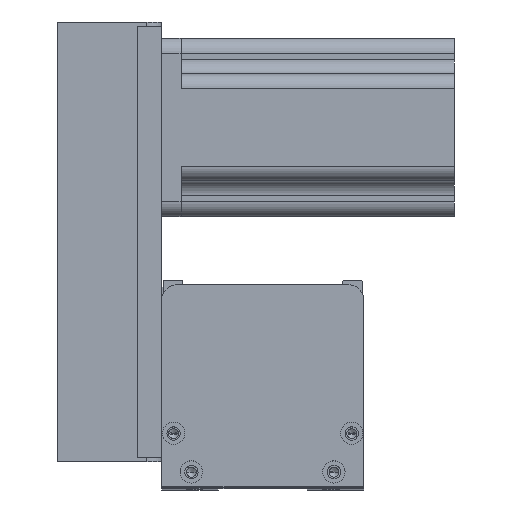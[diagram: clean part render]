
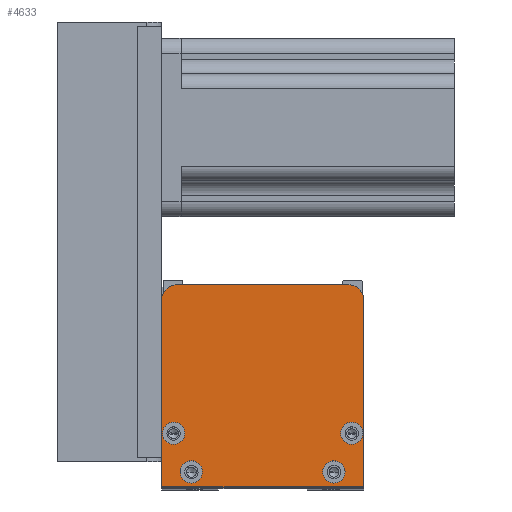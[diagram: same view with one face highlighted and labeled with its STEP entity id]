
A CAD part, top view. The second image highlights one B-rep face of the part: STEP entity #4633.
In plain terms, the highlighted planar face has unit normal (0, 0, 1) as drawn and (0, 0, -1) by its records, which use the part's own axes.
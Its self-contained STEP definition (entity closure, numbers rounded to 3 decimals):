
#109 = EDGE_LOOP ( 'NONE', ( #4531, #4607 ) ) ;
#234 = DIRECTION ( 'NONE',  ( 1., 0., 0. ) ) ;
#284 = DIRECTION ( 'NONE',  ( 0., 0., -1. ) ) ;
#547 = CARTESIAN_POINT ( 'NONE',  ( 7.75, 18., 0. ) ) ;
#691 = AXIS2_PLACEMENT_3D ( 'NONE', #6512, #6688, #18217 ) ;
#1146 = VERTEX_POINT ( 'NONE', #22834 ) ;
#1393 = EDGE_CURVE ( 'NONE', #9323, #11879, #12848, .T. ) ;
#1472 = CARTESIAN_POINT ( 'NONE',  ( 0., 0., 0. ) ) ;
#1484 = DIRECTION ( 'NONE',  ( 0., 0., -1. ) ) ;
#1740 = CARTESIAN_POINT ( 'NONE',  ( 68., 0., 0. ) ) ;
#2481 = AXIS2_PLACEMENT_3D ( 'NONE', #17604, #5911, #19206 ) ;
#2862 = AXIS2_PLACEMENT_3D ( 'NONE', #8205, #17790, #17957 ) ;
#3158 = CARTESIAN_POINT ( 'NONE',  ( 64., 18., 0. ) ) ;
#3197 = CARTESIAN_POINT ( 'NONE',  ( 64., 18., 0. ) ) ;
#3367 = ORIENTED_EDGE ( 'NONE', *, *, #21959, .F. ) ;
#3390 = EDGE_LOOP ( 'NONE', ( #10910, #14379 ) ) ;
#3725 = CARTESIAN_POINT ( 'NONE',  ( 63., 68., 0. ) ) ;
#3748 = EDGE_CURVE ( 'NONE', #8228, #20746, #10017, .T. ) ;
#3756 = FACE_OUTER_BOUND ( 'NONE', #11266, .T. ) ;
#3835 = CIRCLE ( 'NONE', #2862, 5. ) ;
#4088 = DIRECTION ( 'NONE',  ( 0., 0., -1. ) ) ;
#4242 = VECTOR ( 'NONE', #19220, 1000. ) ;
#4271 = CARTESIAN_POINT ( 'NONE',  ( 13.75, 5., 0. ) ) ;
#4362 = FACE_BOUND ( 'NONE', #109, .T. ) ;
#4531 = ORIENTED_EDGE ( 'NONE', *, *, #22191, .F. ) ;
#4607 = ORIENTED_EDGE ( 'NONE', *, *, #1393, .F. ) ;
#4633 = ADVANCED_FACE ( 'NONE', ( #4362, #14039, #8848, #20374, #3756 ), #6222, .F. ) ;
#4650 = CIRCLE ( 'NONE', #691, 3.75 ) ;
#4924 = EDGE_LOOP ( 'NONE', ( #18334, #3367 ) ) ;
#5911 = DIRECTION ( 'NONE',  ( 0., 0., -1. ) ) ;
#6070 = AXIS2_PLACEMENT_3D ( 'NONE', #11777, #13897, #234 ) ;
#6222 = PLANE ( 'NONE',  #10911 ) ;
#6261 = CARTESIAN_POINT ( 'NONE',  ( 68., 68., 0. ) ) ;
#6512 = CARTESIAN_POINT ( 'NONE',  ( 4., 18., 0. ) ) ;
#6594 = ORIENTED_EDGE ( 'NONE', *, *, #19668, .F. ) ;
#6688 = DIRECTION ( 'NONE',  ( 0., 0., -1. ) ) ;
#7095 = CARTESIAN_POINT ( 'NONE',  ( 0., 0., 0. ) ) ;
#7136 = ORIENTED_EDGE ( 'NONE', *, *, #10912, .F. ) ;
#7574 = EDGE_CURVE ( 'NONE', #13852, #20528, #10204, .T. ) ;
#7585 = DIRECTION ( 'NONE',  ( 0., -1., 0. ) ) ;
#8040 = VERTEX_POINT ( 'NONE', #13286 ) ;
#8050 = LINE ( 'NONE', #11026, #22901 ) ;
#8151 = VERTEX_POINT ( 'NONE', #547 ) ;
#8205 = CARTESIAN_POINT ( 'NONE',  ( 63., 63., 0. ) ) ;
#8228 = VERTEX_POINT ( 'NONE', #19874 ) ;
#8848 = FACE_BOUND ( 'NONE', #3390, .T. ) ;
#9013 = AXIS2_PLACEMENT_3D ( 'NONE', #15836, #4088, #13882 ) ;
#9323 = VERTEX_POINT ( 'NONE', #10101 ) ;
#9428 = EDGE_LOOP ( 'NONE', ( #7136, #12215 ) ) ;
#9583 = ORIENTED_EDGE ( 'NONE', *, *, #3748, .F. ) ;
#9778 = DIRECTION ( 'NONE',  ( -1., 0., 0. ) ) ;
#10017 = LINE ( 'NONE', #7095, #23935 ) ;
#10101 = CARTESIAN_POINT ( 'NONE',  ( 67.75, 18., 0. ) ) ;
#10204 = CIRCLE ( 'NONE', #18026, 3.75 ) ;
#10646 = DIRECTION ( 'NONE',  ( 0., 0., -1. ) ) ;
#10752 = VERTEX_POINT ( 'NONE', #4271 ) ;
#10871 = EDGE_CURVE ( 'NONE', #8228, #14805, #17036, .T. ) ;
#10910 = ORIENTED_EDGE ( 'NONE', *, *, #12890, .F. ) ;
#10911 = AXIS2_PLACEMENT_3D ( 'NONE', #13866, #19790, #19863 ) ;
#10912 = EDGE_CURVE ( 'NONE', #8040, #8151, #19774, .T. ) ;
#11026 = CARTESIAN_POINT ( 'NONE',  ( 68., 0., 0. ) ) ;
#11266 = EDGE_LOOP ( 'NONE', ( #9583, #13591, #11672, #16688, #22677, #6594 ) ) ;
#11672 = ORIENTED_EDGE ( 'NONE', *, *, #20481, .F. ) ;
#11777 = CARTESIAN_POINT ( 'NONE',  ( 5., 63., 0. ) ) ;
#11879 = VERTEX_POINT ( 'NONE', #22317 ) ;
#12046 = CARTESIAN_POINT ( 'NONE',  ( 61.75, 5., 0. ) ) ;
#12215 = ORIENTED_EDGE ( 'NONE', *, *, #22896, .F. ) ;
#12693 = EDGE_CURVE ( 'NONE', #20423, #12791, #23602, .T. ) ;
#12744 = DIRECTION ( 'NONE',  ( -1., 0., 0. ) ) ;
#12791 = VERTEX_POINT ( 'NONE', #17650 ) ;
#12848 = CIRCLE ( 'NONE', #17996, 3.75 ) ;
#12890 = EDGE_CURVE ( 'NONE', #1146, #10752, #24196, .T. ) ;
#13184 = LINE ( 'NONE', #6261, #23784 ) ;
#13286 = CARTESIAN_POINT ( 'NONE',  ( 0.25, 18., 0. ) ) ;
#13415 = AXIS2_PLACEMENT_3D ( 'NONE', #16526, #22115, #12744 ) ;
#13492 = CARTESIAN_POINT ( 'NONE',  ( 68., 0., 0. ) ) ;
#13591 = ORIENTED_EDGE ( 'NONE', *, *, #10871, .T. ) ;
#13852 = VERTEX_POINT ( 'NONE', #17637 ) ;
#13866 = CARTESIAN_POINT ( 'NONE',  ( 0., 0., 0. ) ) ;
#13882 = DIRECTION ( 'NONE',  ( -1., 0., 0. ) ) ;
#13897 = DIRECTION ( 'NONE',  ( 0., 0., -1. ) ) ;
#14039 = FACE_BOUND ( 'NONE', #9428, .T. ) ;
#14379 = ORIENTED_EDGE ( 'NONE', *, *, #24144, .F. ) ;
#14632 = CIRCLE ( 'NONE', #9013, 3.75 ) ;
#14692 = AXIS2_PLACEMENT_3D ( 'NONE', #17865, #23782, #16097 ) ;
#14805 = VERTEX_POINT ( 'NONE', #16554 ) ;
#15401 = AXIS2_PLACEMENT_3D ( 'NONE', #3158, #10646, #22240 ) ;
#15836 = CARTESIAN_POINT ( 'NONE',  ( 58., 5., 0. ) ) ;
#16097 = DIRECTION ( 'NONE',  ( -1., 0., 0. ) ) ;
#16526 = CARTESIAN_POINT ( 'NONE',  ( 10., 5., 0. ) ) ;
#16554 = CARTESIAN_POINT ( 'NONE',  ( 5., 68., 0. ) ) ;
#16613 = DIRECTION ( 'NONE',  ( -1., 0., 0. ) ) ;
#16688 = ORIENTED_EDGE ( 'NONE', *, *, #20521, .T. ) ;
#17036 = CIRCLE ( 'NONE', #6070, 5. ) ;
#17424 = VERTEX_POINT ( 'NONE', #3725 ) ;
#17604 = CARTESIAN_POINT ( 'NONE',  ( 10., 5., 0. ) ) ;
#17637 = CARTESIAN_POINT ( 'NONE',  ( 54.25, 5., 0. ) ) ;
#17650 = CARTESIAN_POINT ( 'NONE',  ( 68., 63., 0. ) ) ;
#17790 = DIRECTION ( 'NONE',  ( 0., 0., -1. ) ) ;
#17865 = CARTESIAN_POINT ( 'NONE',  ( 4., 18., 0. ) ) ;
#17957 = DIRECTION ( 'NONE',  ( 1., 0., 0. ) ) ;
#17996 = AXIS2_PLACEMENT_3D ( 'NONE', #3197, #1484, #16613 ) ;
#18026 = AXIS2_PLACEMENT_3D ( 'NONE', #21379, #284, #9778 ) ;
#18217 = DIRECTION ( 'NONE',  ( -1., 0., 0. ) ) ;
#18334 = ORIENTED_EDGE ( 'NONE', *, *, #7574, .F. ) ;
#19206 = DIRECTION ( 'NONE',  ( -1., 0., 0. ) ) ;
#19220 = DIRECTION ( 'NONE',  ( 0., 1., 0. ) ) ;
#19668 = EDGE_CURVE ( 'NONE', #20746, #20423, #8050, .T. ) ;
#19774 = CIRCLE ( 'NONE', #14692, 3.75 ) ;
#19790 = DIRECTION ( 'NONE',  ( 0., 0., 1. ) ) ;
#19863 = DIRECTION ( 'NONE',  ( 1., 0., 0. ) ) ;
#19874 = CARTESIAN_POINT ( 'NONE',  ( 0., 63., 0. ) ) ;
#20374 = FACE_BOUND ( 'NONE', #4924, .T. ) ;
#20423 = VERTEX_POINT ( 'NONE', #13492 ) ;
#20481 = EDGE_CURVE ( 'NONE', #17424, #14805, #13184, .T. ) ;
#20521 = EDGE_CURVE ( 'NONE', #17424, #12791, #3835, .T. ) ;
#20528 = VERTEX_POINT ( 'NONE', #12046 ) ;
#20746 = VERTEX_POINT ( 'NONE', #1472 ) ;
#21379 = CARTESIAN_POINT ( 'NONE',  ( 58., 5., 0. ) ) ;
#21959 = EDGE_CURVE ( 'NONE', #20528, #13852, #14632, .T. ) ;
#22115 = DIRECTION ( 'NONE',  ( 0., 0., -1. ) ) ;
#22191 = EDGE_CURVE ( 'NONE', #11879, #9323, #24621, .T. ) ;
#22240 = DIRECTION ( 'NONE',  ( -1., 0., 0. ) ) ;
#22317 = CARTESIAN_POINT ( 'NONE',  ( 60.25, 18., 0. ) ) ;
#22677 = ORIENTED_EDGE ( 'NONE', *, *, #12693, .F. ) ;
#22793 = DIRECTION ( 'NONE',  ( 1., 0., 0. ) ) ;
#22834 = CARTESIAN_POINT ( 'NONE',  ( 6.25, 5., 0. ) ) ;
#22896 = EDGE_CURVE ( 'NONE', #8151, #8040, #4650, .T. ) ;
#22901 = VECTOR ( 'NONE', #22793, 1000. ) ;
#23456 = CIRCLE ( 'NONE', #2481, 3.75 ) ;
#23602 = LINE ( 'NONE', #1740, #4242 ) ;
#23782 = DIRECTION ( 'NONE',  ( 0., 0., -1. ) ) ;
#23784 = VECTOR ( 'NONE', #23871, 1000. ) ;
#23871 = DIRECTION ( 'NONE',  ( -1., 0., 0. ) ) ;
#23935 = VECTOR ( 'NONE', #7585, 1000. ) ;
#24144 = EDGE_CURVE ( 'NONE', #10752, #1146, #23456, .T. ) ;
#24196 = CIRCLE ( 'NONE', #13415, 3.75 ) ;
#24621 = CIRCLE ( 'NONE', #15401, 3.75 ) ;
